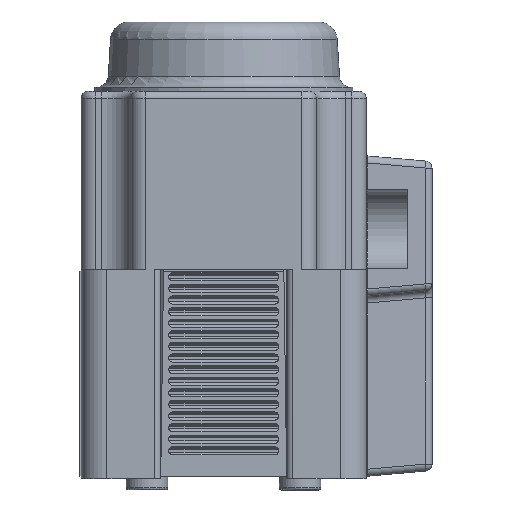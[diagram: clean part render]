
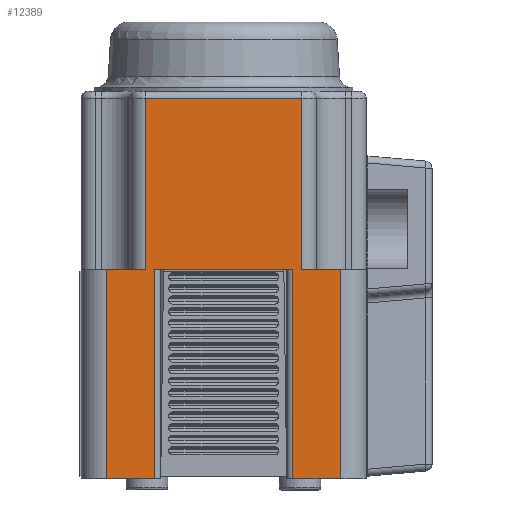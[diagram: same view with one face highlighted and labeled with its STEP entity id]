
A CAD part, left-side view. The second image highlights one B-rep face of the part: STEP entity #12389.
In plain terms, the highlighted planar face has unit normal (-1, 0, 0).
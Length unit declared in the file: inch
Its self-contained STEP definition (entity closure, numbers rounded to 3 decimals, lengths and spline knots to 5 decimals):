
#730=PLANE('',#13855);
#1389=FACE_OUTER_BOUND('',#2144,.T.);
#2144=EDGE_LOOP('',(#10596,#10597,#10598,#10599,#10600,#10601,#10602,#10603,
#10604,#10605,#10606,#10607));
#3478=LINE('',#22485,#4270);
#3491=LINE('',#22555,#4283);
#3607=LINE('',#24128,#4399);
#3624=LINE('',#24186,#4416);
#3625=LINE('',#24190,#4417);
#3628=LINE('',#24209,#4420);
#3641=LINE('',#24285,#4433);
#3642=LINE('',#24289,#4434);
#3643=LINE('',#24290,#4435);
#3644=LINE('',#24292,#4436);
#3645=LINE('',#24294,#4437);
#3646=LINE('',#24295,#4438);
#4270=VECTOR('',#16927,0.3937);
#4283=VECTOR('',#17010,0.3937);
#4399=VECTOR('',#17320,0.3937);
#4416=VECTOR('',#17389,0.3937);
#4417=VECTOR('',#17394,0.3937);
#4420=VECTOR('',#17415,0.3937);
#4433=VECTOR('',#17516,0.3937);
#4434=VECTOR('',#17521,0.3937);
#4435=VECTOR('',#17522,0.3937);
#4436=VECTOR('',#17523,0.3937);
#4437=VECTOR('',#17524,0.3937);
#4438=VECTOR('',#17525,0.3937);
#5362=VERTEX_POINT('',#22477);
#5364=VERTEX_POINT('',#22483);
#5386=VERTEX_POINT('',#22553);
#5516=VERTEX_POINT('',#24125);
#5517=VERTEX_POINT('',#24127);
#5532=VERTEX_POINT('',#24185);
#5533=VERTEX_POINT('',#24189);
#5540=VERTEX_POINT('',#24207);
#5559=VERTEX_POINT('',#24284);
#5560=VERTEX_POINT('',#24288);
#5561=VERTEX_POINT('',#24291);
#5562=VERTEX_POINT('',#24293);
#6956=EDGE_CURVE('',#5364,#5362,#3478,.T.);
#6992=EDGE_CURVE('',#5386,#5364,#3491,.T.);
#7194=EDGE_CURVE('',#5517,#5516,#3607,.T.);
#7223=EDGE_CURVE('',#5532,#5362,#3624,.T.);
#7225=EDGE_CURVE('',#5533,#5532,#3625,.T.);
#7235=EDGE_CURVE('',#5386,#5540,#3628,.T.);
#7273=EDGE_CURVE('',#5559,#5517,#3641,.T.);
#7275=EDGE_CURVE('',#5560,#5540,#3642,.T.);
#7276=EDGE_CURVE('',#5559,#5560,#3643,.T.);
#7277=EDGE_CURVE('',#5561,#5516,#3644,.T.);
#7278=EDGE_CURVE('',#5561,#5562,#3645,.T.);
#7279=EDGE_CURVE('',#5562,#5533,#3646,.T.);
#10596=ORIENTED_EDGE('',*,*,#6956,.F.);
#10597=ORIENTED_EDGE('',*,*,#6992,.F.);
#10598=ORIENTED_EDGE('',*,*,#7235,.T.);
#10599=ORIENTED_EDGE('',*,*,#7275,.F.);
#10600=ORIENTED_EDGE('',*,*,#7276,.F.);
#10601=ORIENTED_EDGE('',*,*,#7273,.T.);
#10602=ORIENTED_EDGE('',*,*,#7194,.T.);
#10603=ORIENTED_EDGE('',*,*,#7277,.F.);
#10604=ORIENTED_EDGE('',*,*,#7278,.T.);
#10605=ORIENTED_EDGE('',*,*,#7279,.T.);
#10606=ORIENTED_EDGE('',*,*,#7225,.T.);
#10607=ORIENTED_EDGE('',*,*,#7223,.T.);
#12389=ADVANCED_FACE('',(#1389),#730,.T.);
#13855=AXIS2_PLACEMENT_3D('',#24287,#17519,#17520);
#16927=DIRECTION('',(0.,-1.,0.));
#17010=DIRECTION('',(0.,0.,1.));
#17320=DIRECTION('',(0.,-1.,0.));
#17389=DIRECTION('',(0.,0.,1.));
#17394=DIRECTION('',(0.,1.,0.));
#17415=DIRECTION('',(0.,1.,0.));
#17516=DIRECTION('',(0.,0.,1.));
#17519=DIRECTION('center_axis',(-1.,0.,0.));
#17520=DIRECTION('ref_axis',(0.,0.,1.));
#17521=DIRECTION('',(0.,0.,1.));
#17522=DIRECTION('',(0.,1.,0.));
#17523=DIRECTION('',(0.,0.,1.));
#17524=DIRECTION('',(0.,-1.,0.));
#17525=DIRECTION('',(0.,0.,1.));
#22477=CARTESIAN_POINT('',(-0.88439,-0.21915,0.6733));
#22483=CARTESIAN_POINT('',(-0.88439,0.44885,0.6733));
#22485=CARTESIAN_POINT('',(-0.88439,0.44885,0.6733));
#22553=CARTESIAN_POINT('',(-0.88439,0.44885,-0.0587));
#22555=CARTESIAN_POINT('',(-0.88439,0.44885,-0.0587));
#24125=CARTESIAN_POINT('',(-0.88439,-0.17915,-0.0587));
#24127=CARTESIAN_POINT('',(-0.88439,0.40885,-0.0587));
#24128=CARTESIAN_POINT('',(-0.88439,0.40885,-0.0587));
#24185=CARTESIAN_POINT('',(-0.88439,-0.21915,-0.0587));
#24186=CARTESIAN_POINT('',(-0.88439,-0.21915,-0.0587));
#24189=CARTESIAN_POINT('',(-0.88439,-0.38415,-0.0587));
#24190=CARTESIAN_POINT('',(-0.88439,-0.38415,-0.0587));
#24207=CARTESIAN_POINT('',(-0.88439,0.61385,-0.0587));
#24209=CARTESIAN_POINT('',(-0.88439,0.44885,-0.0587));
#24284=CARTESIAN_POINT('',(-0.88439,0.40885,-0.9527));
#24285=CARTESIAN_POINT('',(-0.88439,0.40885,-0.9527));
#24287=CARTESIAN_POINT('Origin',(-0.88439,-0.38454,
-0.1397));
#24288=CARTESIAN_POINT('',(-0.88439,0.61385,-0.9527));
#24289=CARTESIAN_POINT('',(-0.88439,0.61385,-0.9527));
#24290=CARTESIAN_POINT('',(-0.88439,0.40885,-0.9527));
#24291=CARTESIAN_POINT('',(-0.88439,-0.17915,-0.9527));
#24292=CARTESIAN_POINT('',(-0.88439,-0.17915,-0.9527));
#24293=CARTESIAN_POINT('',(-0.88439,-0.38415,-0.9527));
#24294=CARTESIAN_POINT('',(-0.88439,-0.17915,-0.9527));
#24295=CARTESIAN_POINT('',(-0.88439,-0.38415,-0.9527));
